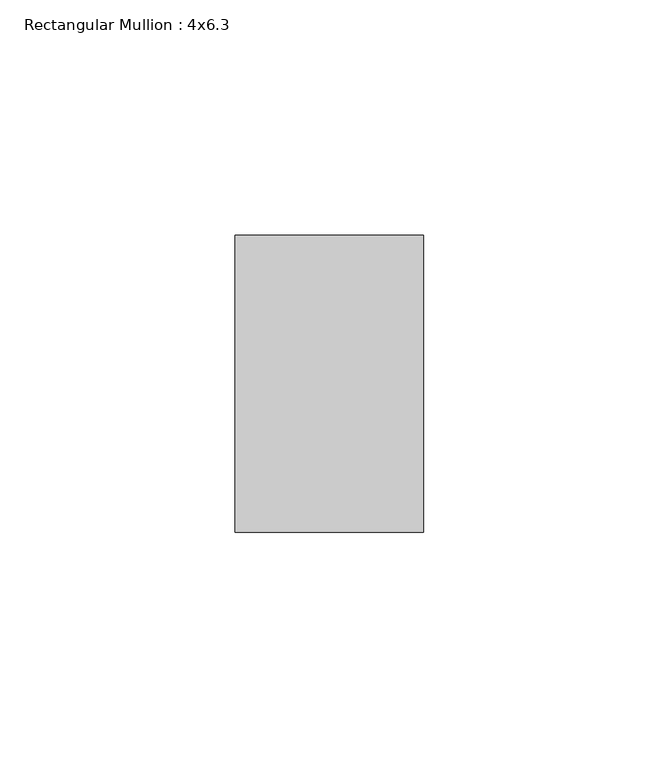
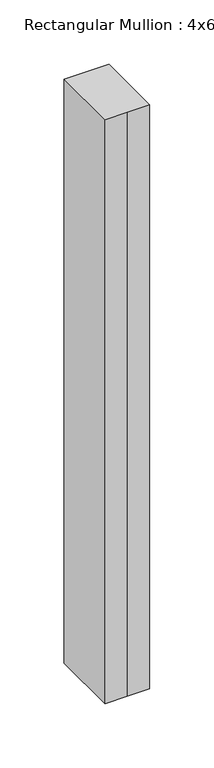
"""IFC4 building model written with IfcOpenShell, lengths in millimetres: member geometry, Rectangular Mullion : 4x6.3."""

from ifc_helpers import new_model, si_unit, frame, origin, place, context, project, spatial, polyline, outline, extrude, source, transform, mapped, element, save


def rectangular_mullion_4x6_3_1b899cb5(model_context):
    return source(origin(), model_context, "Body", "SweptSolid", [
        extrude(outline(polyline([(-20.0, 20.0), (-20.0, 83.0), (20.0, 83.0), (20.0, 20.0), (0.0, 20.0), (-20.0, 20.0)])), frame((0.0, 0.0, -552.7379405), z_axis=(0.0, 0.0, 1.0), x_axis=(1.0, 0.0, 0.0)), (0.0, 0.0, 1.0), 552.7379405),
    ])


if __name__ == "__main__":
    model = new_model("IFC4")
    model_context = context("Model", 3, world=origin())
    ifc_project = project(units=[si_unit("LENGTHUNIT", "METRE", prefix="MILLI")], contexts=[model_context])
    site = spatial("IfcSite", under=ifc_project)
    building = spatial("IfcBuilding", under=site)
    placement = place(None, origin())
    rectangular_mullion_4x6_3_shape = rectangular_mullion_4x6_3_1b899cb5(model_context)
    element("IfcMember", 1, ObjectType="Rectangular Mullion : 4x6.3", at=placement, inside=building, context=model_context, shape_type="MappedRepresentation", body=[
        mapped(rectangular_mullion_4x6_3_shape, transform((0.0, 0.0, 0.0), x_axis=(1.0, 0.0, 0.0), y_axis=(0.0, 1.0, 0.0), z_axis=(0.0, 0.0, 1.0))),
    ])
    save(model, "model.ifc")
